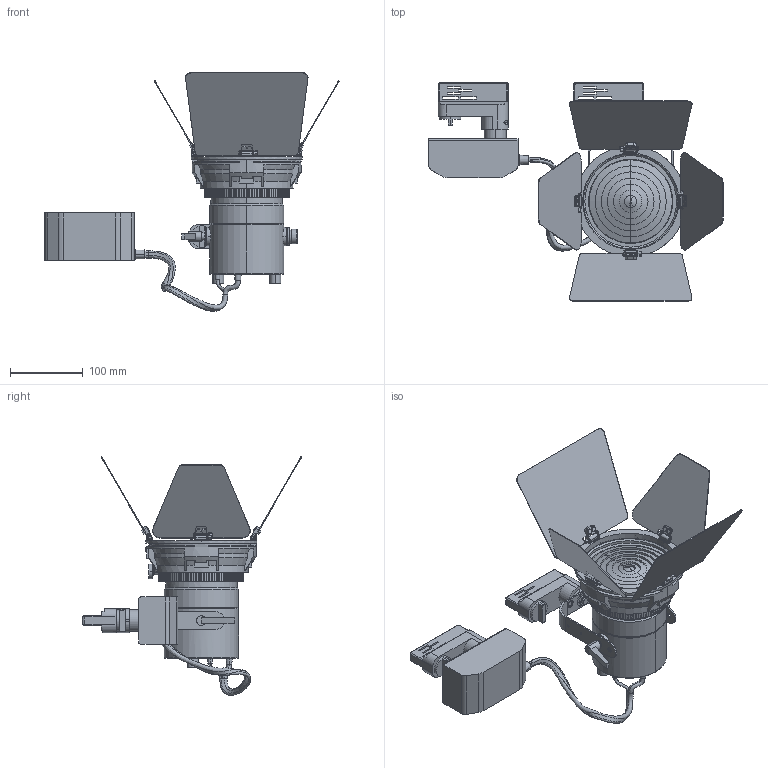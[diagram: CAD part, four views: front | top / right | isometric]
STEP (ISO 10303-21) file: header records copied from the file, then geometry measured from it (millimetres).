
FILE_DESCRIPTION (( 'STEP AP203' ), '1' );
FILE_NAME ('P3F(Track) Hanging.STEP', '2024-07-03T01:44:22', ( '' ), ( '' ), 'SwSTEP 2.0', 'SolidWorks 2014', '' );
FILE_SCHEMA (( 'CONFIG_CONTROL_DESIGN' ));
Length unit declared in the file: millimetre
Products named in the file (7): ONE TRACK Track Adapter+90W Track Mount_Hanging (for P3F); ONE TRACK Track Adapter (for P3F); P3F(Track) Hanging; 5 inch 4-Leaf Barndoor (for Track); 5 inch Fresnel Zoom Lens (for Track); P3 Color - Light Body; P3 Color - Yoke for Track and Clamp
Assembly tree (6 placements, depth 2):
  P3F(Track) Hanging
    P3 Color - Yoke for Track and Clamp
    P3 Color - Light Body
    5 inch Fresnel Zoom Lens (for Track)
    5 inch 4-Leaf Barndoor (for Track)
    ONE TRACK Track Adapter (for P3F)
    ONE TRACK Track Adapter+90W Track Mount_Hanging (for P3F)
Bounding box: 403.48 x 300.67 x 327.3 mm (x, y, z)
Volume: 1988124.4 mm3; surface area: 429516.6 mm2
Topology: 36 solids, 39 shells, 1505 faces, 3878 edges, 2533 vertices
Faces by surface type: cylinder 763, plane 623, cone 93, bspline 18, torus 8
Entity records: 50311 total; most frequent: CARTESIAN_POINT 11634, DIRECTION 8376, ORIENTED_EDGE 7752, EDGE_CURVE 3876, AXIS2_PLACEMENT_3D 3195, VERTEX_POINT 2533, LINE 1986, VECTOR 1986
